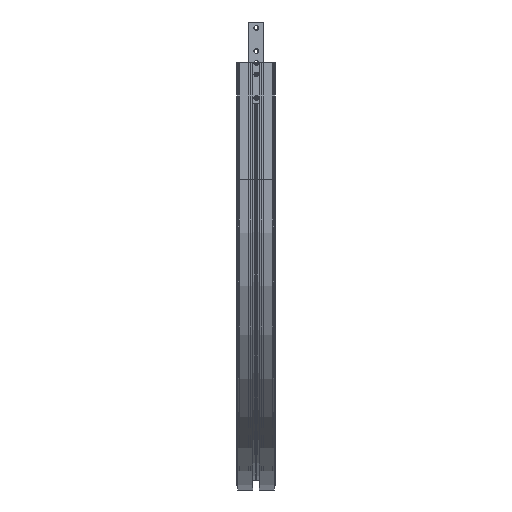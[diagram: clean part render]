
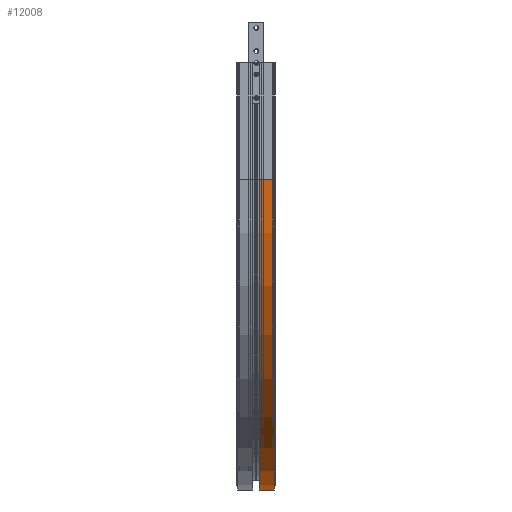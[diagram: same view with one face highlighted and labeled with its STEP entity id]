
A CAD part, left-side view. The second image highlights one B-rep face of the part: STEP entity #12008.
In plain terms, the highlighted cylindrical face has radius 532.5 mm (diameter 1065 mm), a partial arc.
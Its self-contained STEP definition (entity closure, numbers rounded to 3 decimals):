
#1482 = ORIENTED_EDGE ( 'NONE', *, *, #5833, .F. ) ;
#1483 = ORIENTED_EDGE ( 'NONE', *, *, #5835, .F. ) ;
#1484 = ORIENTED_EDGE ( 'NONE', *, *, #5826, .T. ) ;
#1485 = ORIENTED_EDGE ( 'NONE', *, *, #5838, .T. ) ;
#3871 = VERTEX_POINT ( 'NONE', #11171 ) ;
#3873 = VERTEX_POINT ( 'NONE', #11173 ) ;
#3878 = VERTEX_POINT ( 'NONE', #11178 ) ;
#3880 = VERTEX_POINT ( 'NONE', #11180 ) ;
#4268 = CARTESIAN_POINT ( 'NONE',  ( 200., 0., 500. ) ) ;
#4270 = DIRECTION ( 'NONE',  ( 0., 1., 0. ) ) ;
#4273 = CYLINDRICAL_SURFACE ( 'NONE', #9508, 532.5 ) ;
#4274 = FACE_OUTER_BOUND ( 'NONE', #7130, .T. ) ;
#4276 = DIRECTION ( 'NONE',  ( 0., 0., 1. ) ) ;
#5826 = EDGE_CURVE ( 'NONE', #3873, #3880, #9209, .T. ) ;
#5833 = EDGE_CURVE ( 'NONE', #3871, #3878, #9215, .T. ) ;
#5835 = EDGE_CURVE ( 'NONE', #3873, #3871, #15517, .T. ) ;
#5838 = EDGE_CURVE ( 'NONE', #3880, #3878, #15524, .T. ) ;
#7130 = EDGE_LOOP ( 'NONE', ( #1482, #1483, #1484, #1485 ) ) ;
#9209 = CIRCLE ( 'NONE', #9214, 532.5 ) ;
#9214 = AXIS2_PLACEMENT_3D ( 'NONE', #15505, #15506, #15507 ) ;
#9215 = CIRCLE ( 'NONE', #9217, 532.5 ) ;
#9217 = AXIS2_PLACEMENT_3D ( 'NONE', #15518, #15519, #15520 ) ;
#9220 = VECTOR ( 'NONE', #15523, 1000. ) ;
#9222 = VECTOR ( 'NONE', #15526, 1000. ) ;
#9508 = AXIS2_PLACEMENT_3D ( 'NONE', #4268, #4270, #4276 ) ;
#11171 = CARTESIAN_POINT ( 'NONE',  ( 200., 25.9, 1032.5 ) ) ;
#11173 = CARTESIAN_POINT ( 'NONE',  ( 200., 0., 1032.5 ) ) ;
#11178 = CARTESIAN_POINT ( 'NONE',  ( 200., 25.9, -32.5 ) ) ;
#11180 = CARTESIAN_POINT ( 'NONE',  ( 200., 0., -32.5 ) ) ;
#12008 = ADVANCED_FACE ( 'NONE', ( #4274 ), #4273, .T. ) ;
#15505 = CARTESIAN_POINT ( 'NONE',  ( 200., 0., 500. ) ) ;
#15506 = DIRECTION ( 'NONE',  ( 0., 1., 0. ) ) ;
#15507 = DIRECTION ( 'NONE',  ( 0., 0., 1. ) ) ;
#15516 = CARTESIAN_POINT ( 'NONE',  ( 200., 0., -32.5 ) ) ;
#15517 = LINE ( 'NONE', #15522, #9220 ) ;
#15518 = CARTESIAN_POINT ( 'NONE',  ( 200., 25.9, 500. ) ) ;
#15519 = DIRECTION ( 'NONE',  ( 0., 1., 0. ) ) ;
#15520 = DIRECTION ( 'NONE',  ( 0., 0., 1. ) ) ;
#15522 = CARTESIAN_POINT ( 'NONE',  ( 200., 0., 1032.5 ) ) ;
#15523 = DIRECTION ( 'NONE',  ( 0., 1., 0. ) ) ;
#15524 = LINE ( 'NONE', #15516, #9222 ) ;
#15526 = DIRECTION ( 'NONE',  ( 0., 1., 0. ) ) ;
